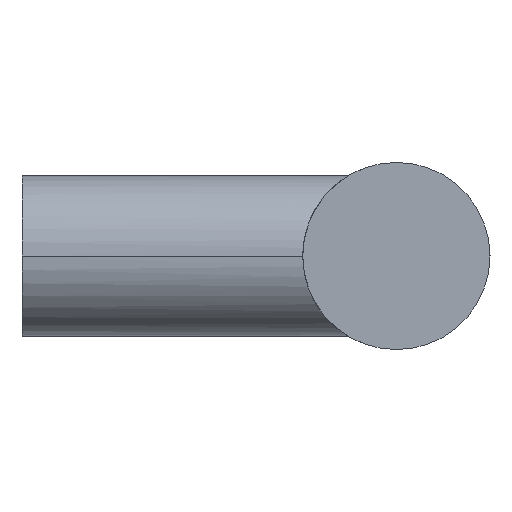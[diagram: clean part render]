
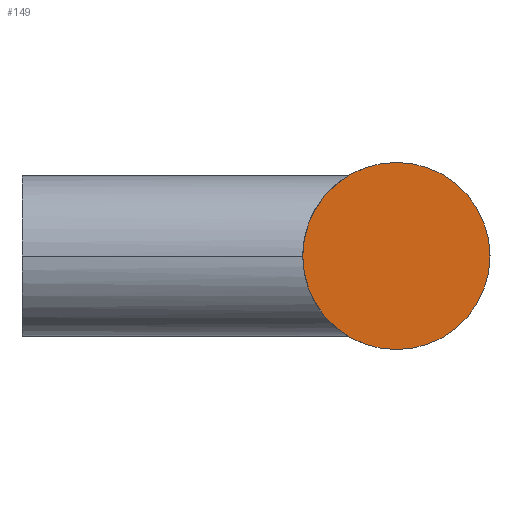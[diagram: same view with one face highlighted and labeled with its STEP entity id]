
A CAD part, left-side view. The second image highlights one B-rep face of the part: STEP entity #149.
In plain terms, the highlighted planar face has unit normal (-1, 0, 0).
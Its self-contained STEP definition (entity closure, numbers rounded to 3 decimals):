
#107 = EDGE_CURVE( '', #217, #141, #268, .T. );
#141 = VERTEX_POINT( '', #304 );
#149 = ADVANCED_FACE( '', ( #314 ), #315, .F. );
#175 = EDGE_CURVE( '', #141, #217, #346, .T. );
#217 = VERTEX_POINT( '', #395 );
#268 = CIRCLE( '', #475, 7. );
#304 = CARTESIAN_POINT( '', ( -30., -28., -7. ) );
#314 = FACE_OUTER_BOUND( '', #578, .T. );
#315 = PLANE( '', #579 );
#346 = CIRCLE( '', #617, 7. );
#395 = CARTESIAN_POINT( '', ( -30., -28., 7. ) );
#475 = AXIS2_PLACEMENT_3D( '', #773, #774, #775 );
#578 = EDGE_LOOP( '', ( #813, #814 ) );
#579 = AXIS2_PLACEMENT_3D( '', #815, #816, #817 );
#617 = AXIS2_PLACEMENT_3D( '', #870, #871, #872 );
#773 = CARTESIAN_POINT( '', ( -30., -28., 0. ) );
#774 = DIRECTION( '', ( 1., 0., 0. ) );
#775 = DIRECTION( '', ( 0., 0., -1. ) );
#813 = ORIENTED_EDGE( '', *, *, #175, .F. );
#814 = ORIENTED_EDGE( '', *, *, #107, .F. );
#815 = CARTESIAN_POINT( '', ( -30., 0., 0. ) );
#816 = DIRECTION( '', ( 1., 0., 0. ) );
#817 = DIRECTION( '', ( 0., 0., -1. ) );
#870 = CARTESIAN_POINT( '', ( -30., -28., 0. ) );
#871 = DIRECTION( '', ( 1., 0., 0. ) );
#872 = DIRECTION( '', ( 0., 0., -1. ) );
